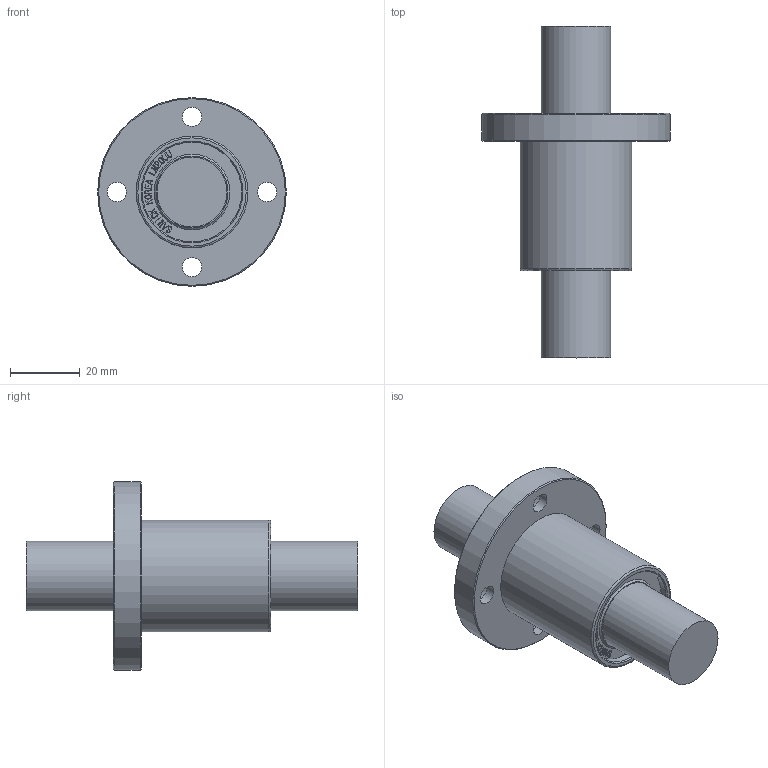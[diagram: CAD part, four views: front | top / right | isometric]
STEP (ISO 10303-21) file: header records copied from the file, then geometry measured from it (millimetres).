
FILE_DESCRIPTION(/* description */ (''),/* implementation_level */ '2;1');
FILE_NAME(/* name */ 'W:\(01) 2024년 홈페이지 CAD파일 최신화\LMEF\IPT\LMEF20UU.stp',/* time_stamp */ '2025-01-25T10:28:00+09:00',/* author */ ('서우현'),/* organization */ (''),/* preprocessor_version */ 'ST-DEVELOPER v17.2',/* originating_system */ 'Autodesk Inventor 2019',/* authorisation */ '');
FILE_SCHEMA (('AUTOMOTIVE_DESIGN { 1 0 10303 214 3 1 1 }'));
Length unit declared in the file: millimetre
Products named in the file (1): LM5
Bounding box: 54 x 95 x 54 mm (x, y, z)
Volume: 60562.4 mm3; surface area: 14085 mm2
Topology: 1 solids, 1 shells, 843 faces, 2381 edges, 1596 vertices
Faces by surface type: bspline 592, plane 228, cylinder 15, cone 6, torus 2
Full cylindrical faces by diameter (mm): 5.5 x4, 9.5 x4, 20 x2, 28.5 x2, 32 x2, 54 x1
Entity records: 29189 total; most frequent: CARTESIAN_POINT 10893, ORIENTED_EDGE 4762, EDGE_CURVE 2381, DIRECTION 1775, VERTEX_POINT 1596, B_SPLINE_CURVE_WITH_KNOTS 1184, LINE 1123, VECTOR 1123
